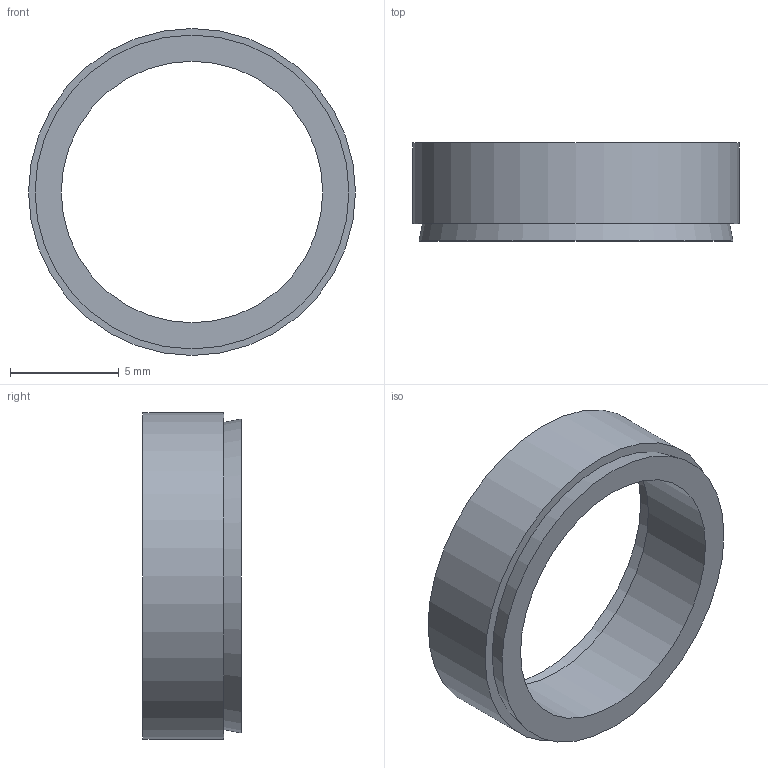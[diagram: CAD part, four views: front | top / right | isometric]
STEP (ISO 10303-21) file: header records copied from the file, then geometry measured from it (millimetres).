
FILE_DESCRIPTION( ( 'Unknown' ), '1' );
FILE_NAME( 'C:/Dokumente und Einstellungen/Sven/Desktop/homepage/cad - homepage/KBS50/KBS 50 - 12 x 15.stp', 'Unknown', ( 'Unknown' ), ( 'Unknown' ), 'XStep 1.0', 'Unknown', ' ' );
FILE_SCHEMA( ( 'automotive_design' ) );
Length unit declared in the file: millimetre
Products named in the file (1): 1
Bounding box: 15 x 4.5 x 15 mm (x, y, z)
Volume: 260.5 mm3; surface area: 523.9 mm2
Topology: 1 solids, 1 shells, 8 faces, 12 edges, 8 vertices
Faces by surface type: plane 4, cylinder 2, cone 2
Full cylindrical faces by diameter (mm): 12 x1, 15 x1
Entity records: 248 total; most frequent: DIRECTION 34, CARTESIAN_POINT 25, AXIS2_PLACEMENT_3D 17, EDGE_LOOP 16, ORIENTED_EDGE 16, FACE_OUTER_BOUND 10, STYLED_ITEM 8, PRESENTATION_STYLE_ASSIGNMENT 8
